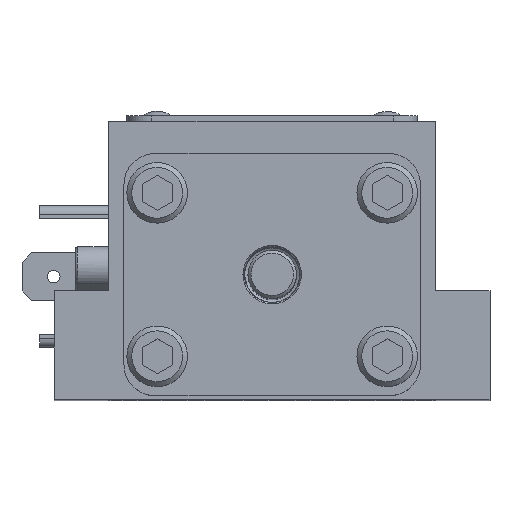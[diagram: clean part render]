
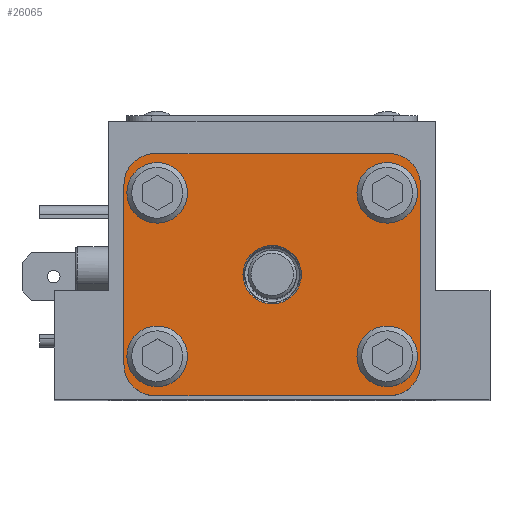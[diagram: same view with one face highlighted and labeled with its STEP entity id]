
A CAD part, top view. The second image highlights one B-rep face of the part: STEP entity #26065.
In plain terms, the highlighted planar face has unit normal (0, 0, 1).
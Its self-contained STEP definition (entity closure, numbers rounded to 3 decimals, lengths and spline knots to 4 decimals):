
#1023=FACE_BOUND('',#4557,.T.);
#1024=FACE_BOUND('',#4558,.T.);
#1025=FACE_BOUND('',#4559,.T.);
#1026=FACE_BOUND('',#4560,.T.);
#1027=FACE_BOUND('',#4561,.T.);
#1621=PLANE('',#28850);
#2935=FACE_OUTER_BOUND('',#4556,.T.);
#4556=EDGE_LOOP('',(#21973,#21974,#21975,#21976,#21977,#21978,#21979,#21980));
#4557=EDGE_LOOP('',(#21981));
#4558=EDGE_LOOP('',(#21982));
#4559=EDGE_LOOP('',(#21983));
#4560=EDGE_LOOP('',(#21984));
#4561=EDGE_LOOP('',(#21985));
#4925=CIRCLE('',#26530,0.3969);
#4928=CIRCLE('',#26543,0.3969);
#4940=CIRCLE('',#26584,0.4064);
#4942=CIRCLE('',#26588,0.4064);
#4944=CIRCLE('',#26592,0.4064);
#4946=CIRCLE('',#26596,0.4064);
#4957=CIRCLE('',#26621,0.3969);
#4960=CIRCLE('',#26634,0.3969);
#6085=CIRCLE('',#28821,0.3835);
#6579=LINE('',#42003,#8250);
#6583=LINE('',#42015,#8254);
#6587=LINE('',#42027,#8258);
#6591=LINE('',#42039,#8262);
#8250=VECTOR('',#30045,1.);
#8254=VECTOR('',#30057,1.);
#8258=VECTOR('',#30069,1.);
#8262=VECTOR('',#30081,1.);
#9883=VERTEX_POINT('',#41812);
#9898=VERTEX_POINT('',#41860);
#9942=VERTEX_POINT('',#41997);
#9944=VERTEX_POINT('',#42001);
#9946=VERTEX_POINT('',#42007);
#9948=VERTEX_POINT('',#42013);
#9950=VERTEX_POINT('',#42019);
#9952=VERTEX_POINT('',#42025);
#9954=VERTEX_POINT('',#42031);
#9956=VERTEX_POINT('',#42037);
#9983=VERTEX_POINT('',#42120);
#9998=VERTEX_POINT('',#42168);
#11708=VERTEX_POINT('',#50786);
#12348=EDGE_CURVE('',#9883,#9883,#4925,.T.);
#12371=EDGE_CURVE('',#9898,#9898,#4928,.T.);
#12438=EDGE_CURVE('',#9944,#9942,#6579,.T.);
#12441=EDGE_CURVE('',#9946,#9944,#4940,.T.);
#12444=EDGE_CURVE('',#9948,#9946,#6583,.T.);
#12447=EDGE_CURVE('',#9950,#9948,#4942,.T.);
#12450=EDGE_CURVE('',#9952,#9950,#6587,.T.);
#12453=EDGE_CURVE('',#9954,#9952,#4944,.T.);
#12456=EDGE_CURVE('',#9956,#9954,#6591,.T.);
#12458=EDGE_CURVE('',#9942,#9956,#4946,.T.);
#12497=EDGE_CURVE('',#9983,#9983,#4957,.T.);
#12520=EDGE_CURVE('',#9998,#9998,#4960,.T.);
#15185=EDGE_CURVE('',#11708,#11708,#6085,.T.);
#21973=ORIENTED_EDGE('',*,*,#12458,.F.);
#21974=ORIENTED_EDGE('',*,*,#12438,.F.);
#21975=ORIENTED_EDGE('',*,*,#12441,.F.);
#21976=ORIENTED_EDGE('',*,*,#12444,.F.);
#21977=ORIENTED_EDGE('',*,*,#12447,.F.);
#21978=ORIENTED_EDGE('',*,*,#12450,.F.);
#21979=ORIENTED_EDGE('',*,*,#12453,.F.);
#21980=ORIENTED_EDGE('',*,*,#12456,.F.);
#21981=ORIENTED_EDGE('',*,*,#12520,.T.);
#21982=ORIENTED_EDGE('',*,*,#12497,.T.);
#21983=ORIENTED_EDGE('',*,*,#12371,.T.);
#21984=ORIENTED_EDGE('',*,*,#12348,.T.);
#21985=ORIENTED_EDGE('',*,*,#15185,.T.);
#26065=ADVANCED_FACE('',(#2935,#1023,#1024,#1025,#1026,#1027),#1621,.T.);
#26530=AXIS2_PLACEMENT_3D('',#41814,#29865,#29866);
#26543=AXIS2_PLACEMENT_3D('',#41862,#29911,#29912);
#26584=AXIS2_PLACEMENT_3D('',#42009,#30051,#30052);
#26588=AXIS2_PLACEMENT_3D('',#42021,#30063,#30064);
#26592=AXIS2_PLACEMENT_3D('',#42033,#30075,#30076);
#26596=AXIS2_PLACEMENT_3D('',#42042,#30086,#30087);
#26621=AXIS2_PLACEMENT_3D('',#42122,#30164,#30165);
#26634=AXIS2_PLACEMENT_3D('',#42170,#30210,#30211);
#28821=AXIS2_PLACEMENT_3D('',#50788,#35815,#35816);
#28850=AXIS2_PLACEMENT_3D('',#50852,#35889,#35890);
#29865=DIRECTION('center_axis',(0.,0.,
-1.));
#29866=DIRECTION('ref_axis',(-1.,0.,0.));
#29911=DIRECTION('center_axis',(0.,0.,
-1.));
#29912=DIRECTION('ref_axis',(-1.,0.,0.));
#30045=DIRECTION('',(1.,0.,0.));
#30051=DIRECTION('center_axis',(0.,0.,
-1.));
#30052=DIRECTION('ref_axis',(-0.707,0.707,0.));
#30057=DIRECTION('',(0.,1.,0.));
#30063=DIRECTION('center_axis',(0.,0.,
-1.));
#30064=DIRECTION('ref_axis',(-0.707,-0.707,0.));
#30069=DIRECTION('',(-1.,0.,0.));
#30075=DIRECTION('center_axis',(0.,0.,
-1.));
#30076=DIRECTION('ref_axis',(0.707,-0.707,0.));
#30081=DIRECTION('',(0.,-1.,0.));
#30086=DIRECTION('center_axis',(0.,0.,
-1.));
#30087=DIRECTION('ref_axis',(0.707,0.707,0.));
#30164=DIRECTION('center_axis',(0.,0.,
-1.));
#30165=DIRECTION('ref_axis',(-1.,0.,0.));
#30210=DIRECTION('center_axis',(0.,0.,
-1.));
#30211=DIRECTION('ref_axis',(-1.,0.,0.));
#35815=DIRECTION('center_axis',(0.,0.,
-1.));
#35816=DIRECTION('ref_axis',(-1.,0.,0.));
#35889=DIRECTION('center_axis',(0.,0.,
1.));
#35890=DIRECTION('ref_axis',(-1.,0.,0.));
#41812=CARTESIAN_POINT('',(-1.1119,1.0719,5.7239));
#41814=CARTESIAN_POINT('Origin',(-1.5088,1.0719,5.7239));
#41860=CARTESIAN_POINT('',(1.9056,1.0719,5.7239));
#41862=CARTESIAN_POINT('Origin',(1.5088,1.0719,5.7239));
#41997=CARTESIAN_POINT('',(1.538,1.5875,5.7239));
#42001=CARTESIAN_POINT('',(-1.538,1.5875,5.7239));
#42003=CARTESIAN_POINT('',(-1.9444,1.5875,5.7239));
#42007=CARTESIAN_POINT('',(-1.9444,1.1811,5.7239));
#42009=CARTESIAN_POINT('Origin',(-1.538,1.1811,5.7239));
#42013=CARTESIAN_POINT('',(-1.9444,-1.1811,5.7239));
#42015=CARTESIAN_POINT('',(-1.9444,-1.5875,5.7239));
#42019=CARTESIAN_POINT('',(-1.538,-1.5875,5.7239));
#42021=CARTESIAN_POINT('Origin',(-1.538,-1.1811,5.7239));
#42025=CARTESIAN_POINT('',(1.538,-1.5875,5.7239));
#42027=CARTESIAN_POINT('',(1.9444,-1.5875,5.7239));
#42031=CARTESIAN_POINT('',(1.9444,-1.1811,5.7239));
#42033=CARTESIAN_POINT('Origin',(1.538,-1.1811,5.7239));
#42037=CARTESIAN_POINT('',(1.9444,1.1811,5.7239));
#42039=CARTESIAN_POINT('',(1.9444,1.5875,5.7239));
#42042=CARTESIAN_POINT('Origin',(1.538,1.1811,5.7239));
#42120=CARTESIAN_POINT('',(1.9056,-1.0719,5.7239));
#42122=CARTESIAN_POINT('Origin',(1.5088,-1.0719,5.7239));
#42168=CARTESIAN_POINT('',(-1.1119,-1.0719,5.7239));
#42170=CARTESIAN_POINT('Origin',(-1.5088,-1.0719,5.7239));
#50786=CARTESIAN_POINT('',(0.3835,0.,5.7239));
#50788=CARTESIAN_POINT('Origin',(0.,0.,
5.7239));
#50852=CARTESIAN_POINT('Origin',(0.,0.,
5.7239));
